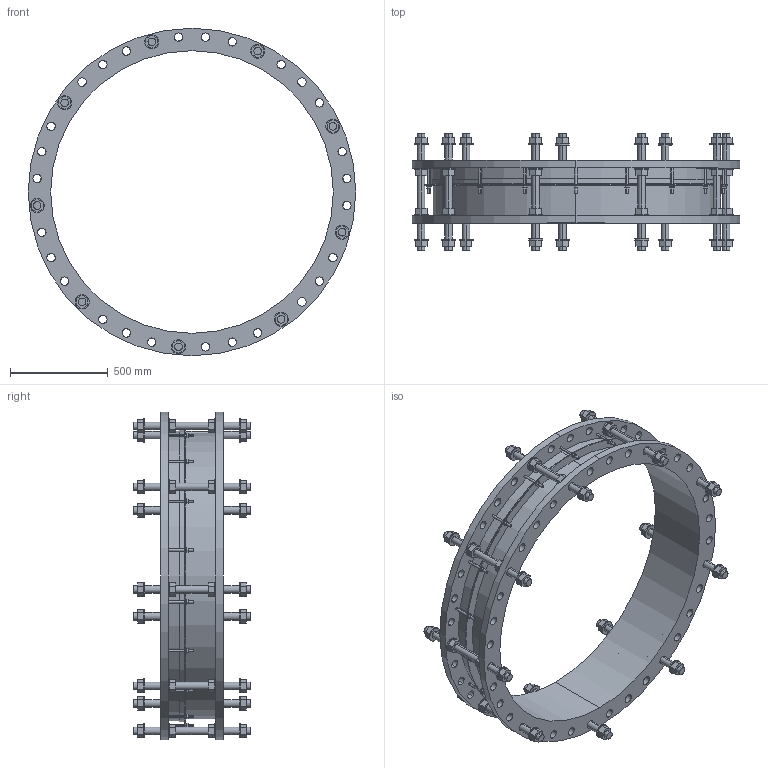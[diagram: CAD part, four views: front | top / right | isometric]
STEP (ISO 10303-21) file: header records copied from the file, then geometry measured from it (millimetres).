
FILE_DESCRIPTION((''),'2;1');
FILE_NAME('A2E_DJ_BIM_ASM','2020-11-26T',('mfairey'),('Glynwed Pipe Systems'),'CREO PARAMETRIC BY PTC INC, 2016130','CREO PARAMETRIC BY PTC INC, 2016130','');
FILE_SCHEMA(('CONFIG_CONTROL_DESIGN'));
Length unit declared in the file: millimetre
Products named in the file (3): DJ_AF0; TIE_BOLT_BIM; A2E_DJ_BIM_ASM
Assembly tree (10 placements, depth 2):
  A2E_DJ_BIM_ASM
    DJ_AF0
    TIE_BOLT_BIM  x9
Bounding box: 1675 x 600 x 1675 mm (x, y, z)
Volume: 62521076 mm3; surface area: 6738244 mm2
Topology: 10 solids, 10 shells, 974 faces, 2386 edges, 1578 vertices
Faces by surface type: plane 528, cylinder 442, cone 4
Entity records: 18226 total; most frequent: CARTESIAN_POINT 4224, DIRECTION 3036, ORIENTED_EDGE 2756, EDGE_CURVE 1378, AXIS2_PLACEMENT_3D 1168, VERTEX_POINT 906, EDGE_LOOP 758, VECTOR 700
